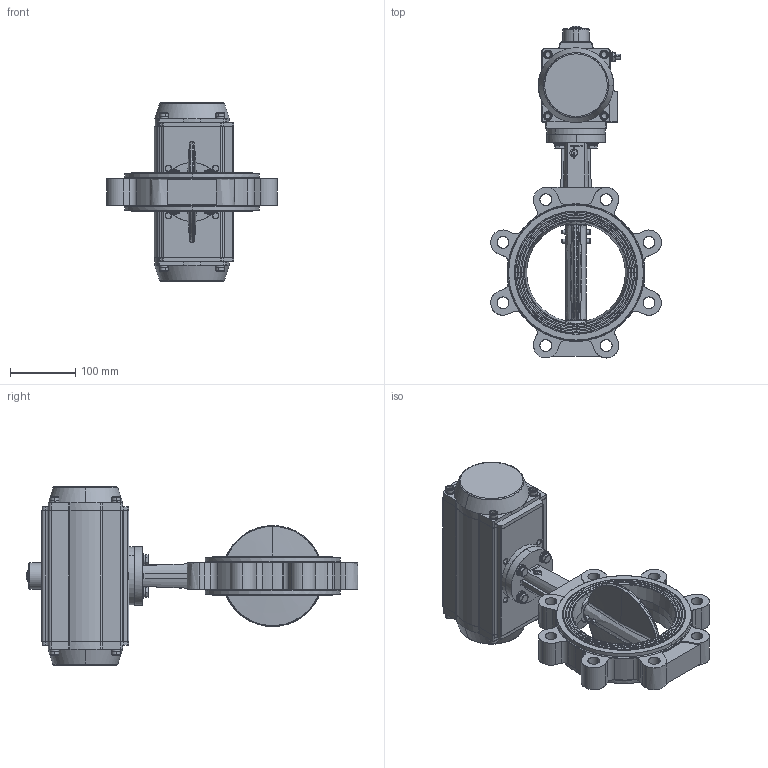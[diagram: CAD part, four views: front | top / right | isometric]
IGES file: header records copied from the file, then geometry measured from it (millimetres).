
Start section: SolidWorks IGES file using analytic representation for surfaces
Global section: file name: H:\BE FABRICATION\BE SERIE\VP\VP SERIE\F072 VPG\plan 3D\VPG-N03\LUG\DN150\VPG464X-N03XX0150.igs; native system: SolidWorks 2020; preprocessor: SolidWorks 2020; author: k.gigout; date: 220627.175009; units: millimetre
Bounding box: 260.65 x 506.94 x 272 mm (x, y, z)
Surface area: 428737.7 mm2 (no closed solid volume)
Topology: 0 solids, 0 shells, 748 faces, 19010 edges, 19006 vertices
Faces by surface type: bspline 407, revolution 341
